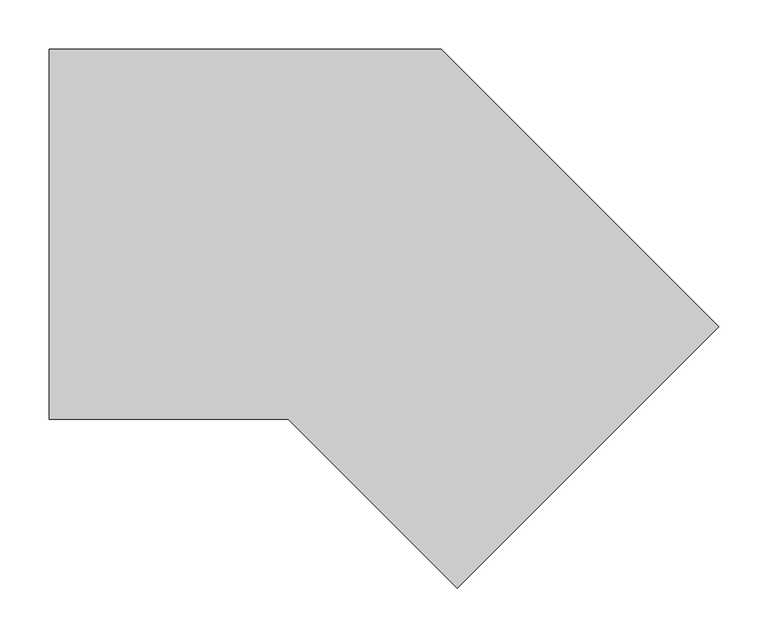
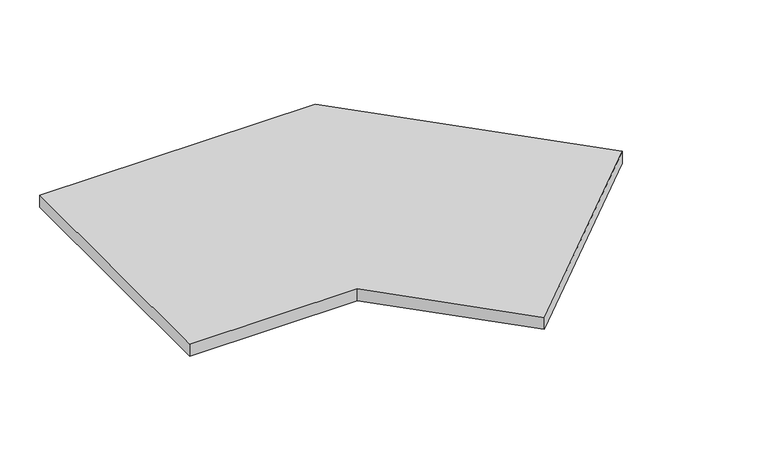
"""IFC4 building model written with IfcOpenShell, lengths in millimetres: proxy geometry, TECHNO_Решетка_KVU : Решетка рулонная алюминиевая/ Белый RAL 9016."""

from ifc_helpers import new_model, si_unit, frame, origin, place, context, project, spatial, polyline, outline, extrude, source, transform, mapped, element, save


def mechanical_equipment_ea0a8ee2(model_context):
    return source(origin(), model_context, "Body", "SweptSolid", [
        extrude(outline(polyline([(361.0483146, -94.044794), (94.044794, -361.0483146), (-78.2035206, -188.8), (-321.7994231, -188.8), (-321.7994231, 188.8), (78.2035206, 188.8), (361.0483146, -94.044794)])), frame((0.0, 0.0, -18.1), z_axis=(0.0, 0.0, 1.0), x_axis=(1.0, 0.0, 0.0)), (0.0, 0.0, 1.0), 18.1),
    ])


if __name__ == "__main__":
    model = new_model("IFC4")
    model_context = context("Model", 3, world=origin())
    ifc_project = project(units=[si_unit("LENGTHUNIT", "METRE", prefix="MILLI")], contexts=[model_context])
    site = spatial("IfcSite", under=ifc_project)
    building = spatial("IfcBuilding", under=site)
    placement = place(None, origin())
    mechanical_equipment_shape = mechanical_equipment_ea0a8ee2(model_context)
    element("IfcBuildingElementProxy", 1, Name="TECHNO_Решетка_KVU : Решетка рулонная алюминиевая/ Белый RAL 9016", ObjectType="TECHNO_Решетка_KVU : Решетка рулонная алюминиевая/ Белый RAL 9016", at=placement, inside=building, context=model_context, shape_type="MappedRepresentation", body=[
        mapped(mechanical_equipment_shape, transform((0.0, 0.0, 0.0), x_axis=(1.0, 0.0, 0.0), y_axis=(0.0, 1.0, 0.0), z_axis=(0.0, 0.0, 1.0))),
    ])
    save(model, "model.ifc")
